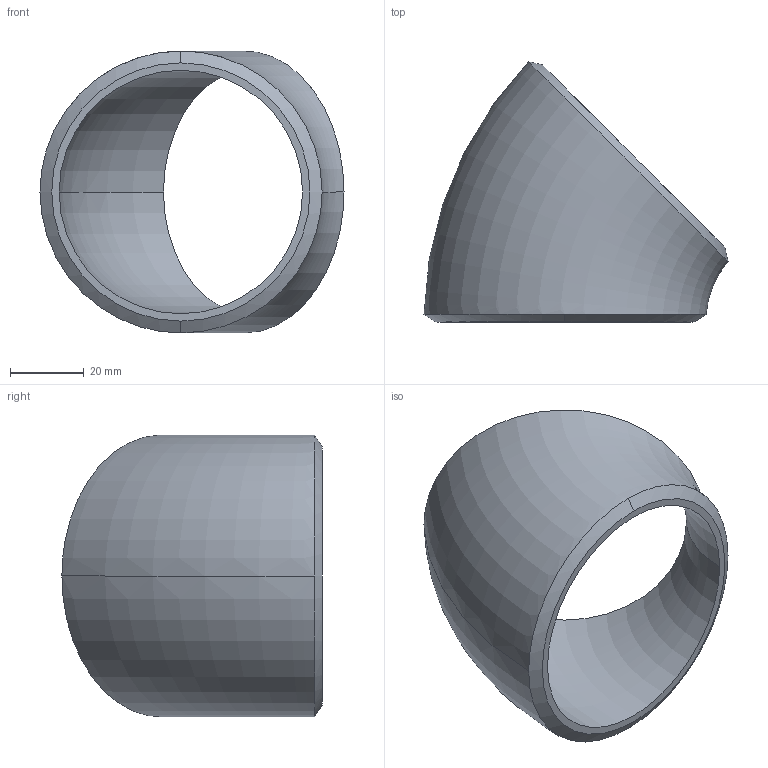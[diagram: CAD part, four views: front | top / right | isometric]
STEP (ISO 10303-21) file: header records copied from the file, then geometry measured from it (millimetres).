
FILE_DESCRIPTION (( 'STEP AP214' ), '1' );
FILE_NAME ('Elbow-short-45deg_Sch40-65A.STEP', '2021-09-16T05:02:52', ( 'ASIS User' ), ( 'ASIS User' ), 'SwSTEP 2.0', 'SolidWorks 2021', '' );
FILE_SCHEMA (( 'AUTOMOTIVE_DESIGN' ));
Length unit declared in the file: millimetre
Products named in the file (1): Elbow-short-45deg_Sch40-65A
Bounding box: 82.28 x 70.43 x 76.3 mm (x, y, z)
Volume: 56398.3 mm3; surface area: 23899.9 mm2
Topology: 1 solids, 1 shells, 10 faces, 22 edges, 14 vertices
Faces by surface type: torus 4, cone 4, plane 2
Entity records: 572 total; most frequent: CARTESIAN_POINT 311, DIRECTION 50, ORIENTED_EDGE 44, AXIS2_PLACEMENT_3D 23, EDGE_CURVE 22, VERTEX_POINT 14, EDGE_LOOP 12, CIRCLE 12
